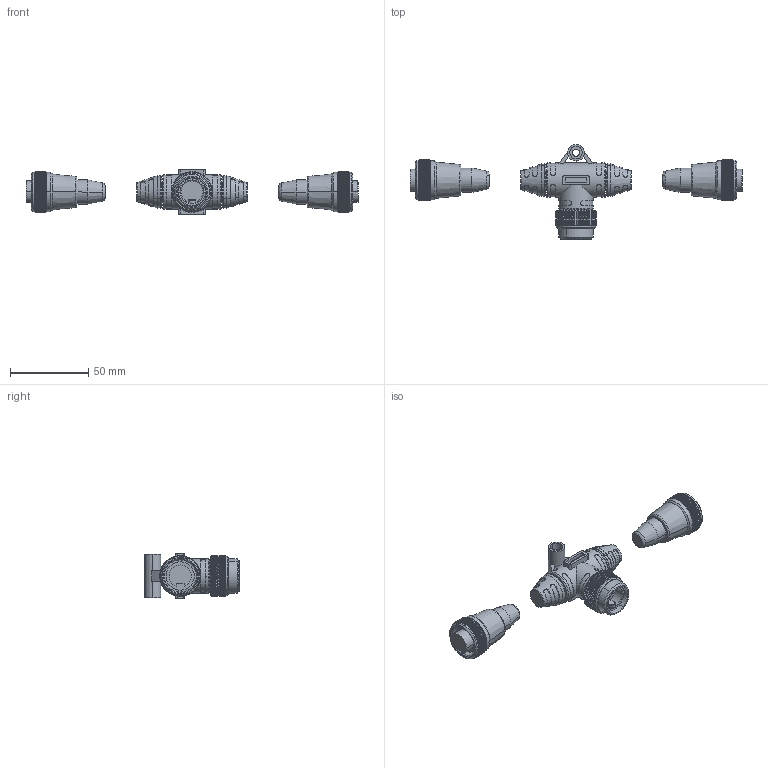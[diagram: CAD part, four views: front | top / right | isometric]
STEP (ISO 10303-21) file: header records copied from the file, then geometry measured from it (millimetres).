
FILE_DESCRIPTION (( 'STEP AP203' ), '1' );
FILE_NAME ('RKM-0-RSM-RKM-0.step', '2016-09-27T18:26:53', ( 'Turck User' ), ( '' ), 'SwSTEP 2.0', 'SolidWorks 2015', '' );
FILE_SCHEMA (( 'CONFIG_CONTROL_DESIGN' ));
Length unit declared in the file: millimetre
Products named in the file (2): RKM-0-RSM-RKM-0
Bounding box: 211.63 x 60.55 x 28.5 mm (x, y, z)
Volume: 63222.3 mm3; surface area: 22863.6 mm2
Topology: 3 solids, 3 shells, 1274 faces, 3505 edges, 2263 vertices
Faces by surface type: plane 760, cylinder 428, cone 56, torus 20, bspline 10
Entity records: 42811 total; most frequent: CARTESIAN_POINT 11793, ORIENTED_EDGE 7006, DIRECTION 5967, EDGE_CURVE 3503, AXIS2_PLACEMENT_3D 2318, VERTEX_POINT 2263, VECTOR 1331, LINE 1331
